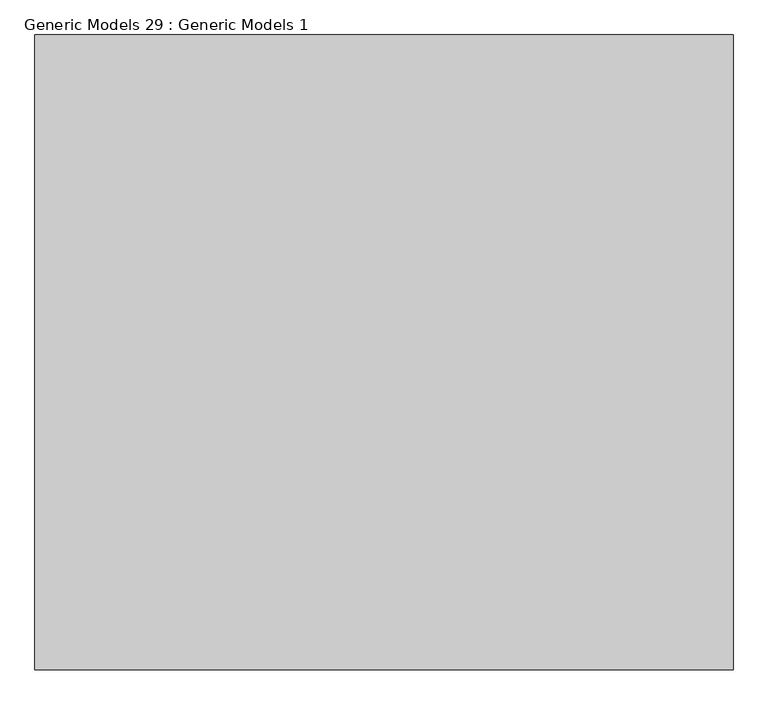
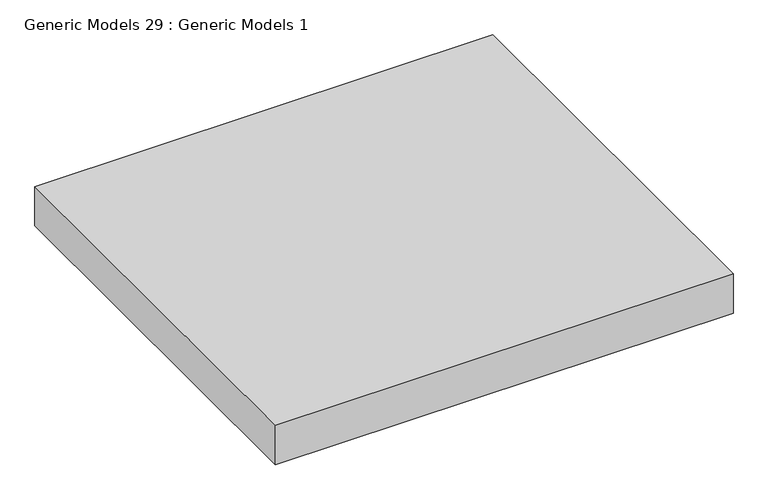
"""IFC4 building model written with IfcOpenShell, lengths in millimetres: proxy geometry, Generic Models 29 : Generic Models 1."""

import ifcopenshell
import ifcopenshell.guid

model = None  # the IFC model being written
_history = None  # IfcOwnerHistory: only IFC2X3 demands one
_inside = {}  # id of a spatial element -> (the spatial element, [elements in it])
_under = {}  # id of a project, library or spatial element -> (it, [spatial elements below it])
_declared = {}  # id of a project -> (the project, [libraries it declares])
_typed = {}  # id of a type object -> (the type object, [elements of that type])
_made_of = {}  # id of a material, layer set ... -> (it, [elements and type objects made of it])


def new_model(schema):
    """Start an empty IFC model of exactly this schema.

    Asked for "IFC4X3", IfcOpenShell would pick the latest addendum, in which some entities
    have other attributes; the version numbers below select the first issue.
    IFC2X3 requires an IfcOwnerHistory on every rooted entity: one is made here for all.
    """
    global model, _history
    if schema == "IFC4X3":
        model = ifcopenshell.file(schema_version=(4, 3, 0, 0))
    else:
        model = ifcopenshell.file(schema=schema)
    _inside.clear()
    _under.clear()
    _declared.clear()
    _typed.clear()
    _made_of.clear()
    _history = None
    if model.schema == "IFC2X3":
        org = make("IfcOrganization", Name="unknown")
        user = make(
            "IfcPersonAndOrganization",
            ThePerson=make("IfcPerson", FamilyName="unknown"),
            TheOrganization=org,
        )
        app = make(
            "IfcApplication",
            ApplicationDeveloper=org,
            Version="unknown",
            ApplicationFullName="unknown",
            ApplicationIdentifier="unknown",
        )
        _history = make(
            "IfcOwnerHistory",
            OwningUser=user,
            OwningApplication=app,
            ChangeAction="ADDED",
            CreationDate=0,
        )
    return model


def make(cls, **values):
    """One entity of the class cls with the attributes given. An attribute that is None is left unset."""
    return model.create_entity(
        cls, **{name: value for name, value in values.items() if value is not None}
    )


def rooted(cls, **values):
    """An entity with a GlobalId (a new one), such as an element, a storey or a relation."""
    return make(cls, GlobalId=ifcopenshell.guid.new(), OwnerHistory=_history, **values)


def si_unit(unit_type, name, prefix=None):
    """IfcSIUnit, for example si_unit("LENGTHUNIT", "METRE", prefix="MILLI")."""
    return make("IfcSIUnit", UnitType=unit_type, Prefix=prefix, Name=name)


def assignment(units):
    """IfcUnitAssignment: the units of a project."""
    return None if units is None else make("IfcUnitAssignment", Units=units)


def point(xyz):
    """IfcCartesianPoint."""
    return None if xyz is None else make("IfcCartesianPoint", Coordinates=xyz)


def direction(xyz):
    """IfcDirection."""
    return None if xyz is None else make("IfcDirection", DirectionRatios=xyz)


def frame(location, z_axis=None, x_axis=None):
    """IfcAxis2Placement3D, a coordinate frame: its origin and axes. An axis left out is left unset."""
    return make(
        "IfcAxis2Placement3D",
        Location=point(location),
        Axis=direction(z_axis),
        RefDirection=direction(x_axis),
    )


def origin():
    """The frame at (0, 0, 0) with its axes left unset."""
    return frame((0.0, 0.0, 0.0))


def origin_with_axes():
    """The frame at (0, 0, 0) with the z axis (0, 0, 1) and the x axis (1, 0, 0) written out."""
    return frame((0.0, 0.0, 0.0), z_axis=(0.0, 0.0, 1.0), x_axis=(1.0, 0.0, 0.0))


def place(relative_to, where):
    """IfcLocalPlacement: puts the frame where relative to a parent placement (None: the world)."""
    return make(
        "IfcLocalPlacement", PlacementRelTo=relative_to, RelativePlacement=where
    )


def context(
    kind, dimensions, precision=None, world=None, true_north=None, identifier=None
):
    """IfcGeometricRepresentationContext, for example the 3D "Model" context."""
    return make(
        "IfcGeometricRepresentationContext",
        ContextIdentifier=identifier,
        ContextType=kind,
        CoordinateSpaceDimension=dimensions,
        Precision=precision,
        WorldCoordinateSystem=world,
        TrueNorth=true_north,
    )


def project(units=None, contexts=None):
    """IfcProject with its units and contexts."""
    return rooted(
        "IfcProject",
        Name="project",
        RepresentationContexts=contexts,
        UnitsInContext=assignment(units),
    )


def spatial(cls, under=None, at=None, **own):
    """A site, building, storey or space (cls), placed at a placement, below another one or the project."""
    s = rooted(cls, ObjectPlacement=at, **own)
    if under is not None:
        _under.setdefault(under.id(), (under, []))[1].append(s)
    return s


def polyline(points):
    """IfcPolyline through the points."""
    return make("IfcPolyline", Points=[point(p) for p in points])


def outline(outer, holes=None, kind="AREA"):
    """IfcArbitraryClosedProfileDef: a profile drawn as a closed curve; with holes, ...WithVoids."""
    if holes is None:
        return make("IfcArbitraryClosedProfileDef", ProfileType=kind, OuterCurve=outer)
    return make(
        "IfcArbitraryProfileDefWithVoids",
        ProfileType=kind,
        OuterCurve=outer,
        InnerCurves=holes,
    )


def extrude(swept, where, along, depth):
    """IfcExtrudedAreaSolid: the profile swept, set in the frame where, extruded along a direction by depth."""
    return make(
        "IfcExtrudedAreaSolid",
        SweptArea=swept,
        Position=where,
        ExtrudedDirection=direction(along),
        Depth=depth,
    )


def shape(context_of_items, identifier, shape_type, items):
    """IfcShapeRepresentation: the items that make up one representation, for example the "Body"."""
    return make(
        "IfcShapeRepresentation",
        ContextOfItems=context_of_items,
        RepresentationIdentifier=identifier,
        RepresentationType=shape_type,
        Items=items,
    )


def source(mapping_origin, context_of_items, identifier, shape_type, items):
    """IfcRepresentationMap: a shape defined once, which mapped items show again and again."""
    return make(
        "IfcRepresentationMap",
        MappingOrigin=mapping_origin,
        MappedRepresentation=shape(context_of_items, identifier, shape_type, items),
    )


def transform(
    local_origin,
    x_axis=None,
    y_axis=None,
    z_axis=None,
    scale=None,
    scale2=None,
    scale3=None,
    uniform=True,
):
    """IfcCartesianTransformationOperator3D, or its non-uniform kind. x_axis, y_axis, z_axis: its Axis1, 2, 3."""
    if uniform:
        return make(
            "IfcCartesianTransformationOperator3D",
            Axis1=direction(x_axis),
            Axis2=direction(y_axis),
            LocalOrigin=point(local_origin),
            Scale=scale,
            Axis3=direction(z_axis),
        )
    return make(
        "IfcCartesianTransformationOperator3DnonUniform",
        Axis1=direction(x_axis),
        Axis2=direction(y_axis),
        LocalOrigin=point(local_origin),
        Scale=scale,
        Axis3=direction(z_axis),
        Scale2=scale2,
        Scale3=scale3,
    )


def mapped(mapping_source, mapping_target):
    """IfcMappedItem: shows the shape of a source again, moved by a transform."""
    return make(
        "IfcMappedItem", MappingSource=mapping_source, MappingTarget=mapping_target
    )


def made_of(thing, what):
    """Note that an element or type object is made of a material, layer set ...; save() writes the relation."""
    if what is not None:
        _made_of.setdefault(what.id(), (what, []))[1].append(thing)
    return thing


def element(
    cls,
    number,
    at=None,
    inside=None,
    cuts=None,
    type_object=None,
    material=None,
    context=None,
    identifier="Body",
    shape_type=None,
    held_by="IfcProductDefinitionShape",
    body=None,
    shapes=None,
    **own,
):
    """One element of the class cls, such as IfcWall. Its Tag is "e" and its number.

    at: its placement. inside: the storey or other place that contains it. cuts: it is an
    opening in that element (IfcRelVoidsElement). A single representation is given by context,
    identifier, shape_type and body (its items); several are given by shapes. held_by: the class
    of the entity that holds the representations. save() writes the other relations.
    """
    e = rooted(cls, Tag="e%d" % number, ObjectPlacement=at, **own)
    if body is not None:
        shapes = [shape(context, identifier, shape_type, body)]
    if shapes is not None:
        e.Representation = make(held_by, Representations=shapes)
    if inside is not None:
        _inside.setdefault(inside.id(), (inside, []))[1].append(e)
    if cuts is not None:
        rooted(
            "IfcRelVoidsElement", RelatingBuildingElement=cuts, RelatedOpeningElement=e
        )
    if type_object is not None:
        _typed.setdefault(type_object.id(), (type_object, []))[1].append(e)
    return made_of(e, material)


def aggregate(whole, parts):
    """IfcRelAggregates: a whole, such as a stair, and the parts it consists of."""
    return rooted("IfcRelAggregates", RelatingObject=whole, RelatedObjects=parts)


def save(model, path):
    """Write the relations noted so far, then the file.

    IfcRelAggregates (storeys below a building ...), IfcRelContainedInSpatialStructure (elements
    in a storey), IfcRelDefinesByType, IfcRelAssociatesMaterial and IfcRelDeclares: one each for
    every whole, place, type object, material and project.
    """
    for whole, parts in _under.values():
        aggregate(whole, parts)
    for where, things in _inside.values():
        rooted(
            "IfcRelContainedInSpatialStructure",
            RelatedElements=things,
            RelatingStructure=where,
        )
    for kind, things in _typed.values():
        rooted("IfcRelDefinesByType", RelatedObjects=things, RelatingType=kind)
    for what, things in _made_of.values():
        rooted("IfcRelAssociatesMaterial", RelatedObjects=things, RelatingMaterial=what)
    for by, libraries in _declared.values():
        rooted("IfcRelDeclares", RelatingContext=by, RelatedDefinitions=libraries)
    model.write(path)


def generic_models_29_generic_models_1_1ee64e21(model_context):
    return source(origin(), model_context, "Body", "SweptSolid", [
        extrude(outline(polyline([(11348.8728451, -4286.5772826), (11348.8728451, -3286.5772826), (12448.8728451, -3286.5772826), (12448.8728451, -4286.5772826), (11348.8728451, -4286.5772826)])), origin_with_axes(), (0.0, 0.0, 1.0), 100.0),
    ])


if __name__ == "__main__":
    model = new_model("IFC4")
    model_context = context("Model", 3, world=origin())
    ifc_project = project(units=[si_unit("LENGTHUNIT", "METRE", prefix="MILLI")], contexts=[model_context])
    site = spatial("IfcSite", under=ifc_project)
    building = spatial("IfcBuilding", under=site)
    placement = place(None, origin())
    generic_models_29_generic_models_1_shape = generic_models_29_generic_models_1_1ee64e21(model_context)
    element("IfcBuildingElementProxy", 1, Name="Generic Models 29 : Generic Models 1", ObjectType="Generic Models 29 : Generic Models 1", at=placement, inside=building, context=model_context, shape_type="MappedRepresentation", body=[
        mapped(generic_models_29_generic_models_1_shape, transform((0.0, 0.0, 0.0), x_axis=(1.0, 0.0, 0.0), y_axis=(0.0, 1.0, 0.0), z_axis=(0.0, 0.0, 1.0))),
    ])
    save(model, "model.ifc")
